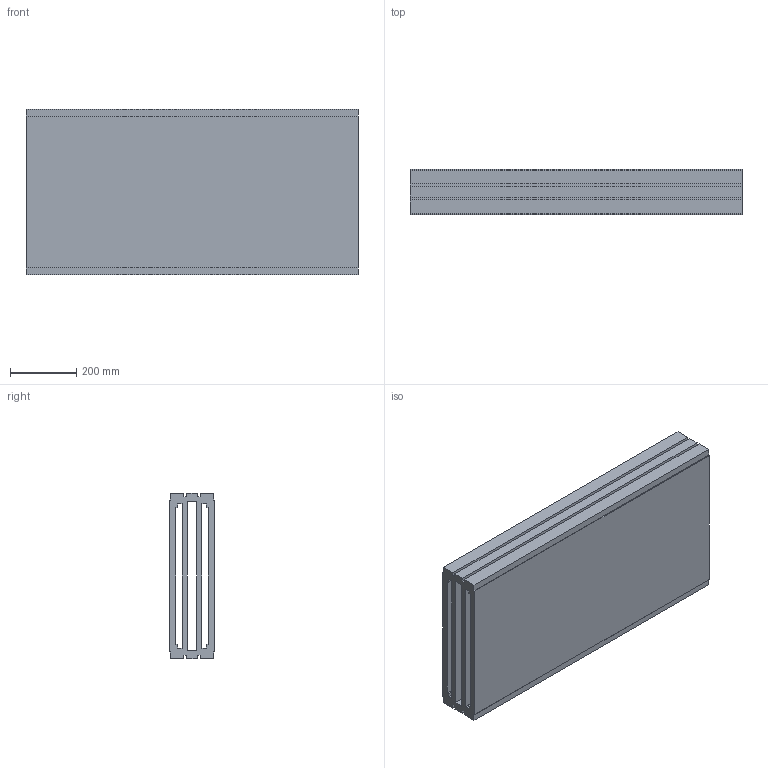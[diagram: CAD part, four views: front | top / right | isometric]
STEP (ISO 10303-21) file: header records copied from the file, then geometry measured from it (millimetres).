
FILE_DESCRIPTION (( 'STEP AP214' ), '1' );
FILE_NAME ('FS-500-MTC-150 02.150L01.500.N Baansectie recht 1000mm.STEP', '2017-12-21T10:09:19', ( '' ), ( '' ), 'SwSTEP 2.0', 'SolidWorks 2017', '' );
FILE_SCHEMA (( 'AUTOMOTIVE_DESIGN' ));
Length unit declared in the file: millimetre
Products named in the file (1): FS-500-MTC-150 02.150L01.500.N Baansectie recht 1000mm
Bounding box: 1000 x 136 x 499 mm (x, y, z)
Volume: 38525520 mm3; surface area: 4197051 mm2
Topology: 1 solids, 1 shells, 50 faces, 144 edges, 96 vertices
Faces by surface type: plane 50
Entity records: 1654 total; most frequent: CARTESIAN_POINT 291, ORIENTED_EDGE 288, DIRECTION 246, EDGE_CURVE 144, VECTOR 144, LINE 144, VERTEX_POINT 96, EDGE_LOOP 56
